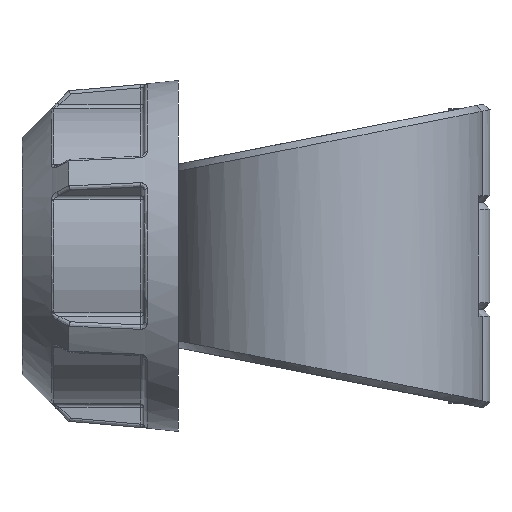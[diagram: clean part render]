
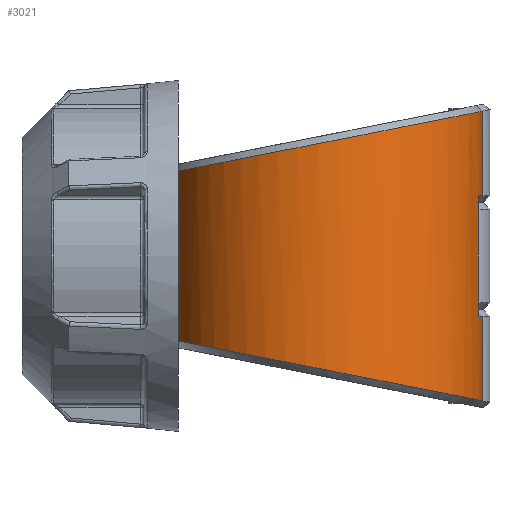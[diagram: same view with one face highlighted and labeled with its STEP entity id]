
A CAD part, left-side view. The second image highlights one B-rep face of the part: STEP entity #3021.
In plain terms, the highlighted cylindrical face has radius 45.5 mm (diameter 91 mm), a partial arc.
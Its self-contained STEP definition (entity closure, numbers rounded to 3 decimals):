
#212=FACE_OUTER_BOUND('',#416,.T.);
#416=EDGE_LOOP('',(#2055,#2056,#2057,#2058,#2059,#2060,#2061,#2062,#2063,
#2064,#2065,#2066));
#623=CIRCLE('',#3251,45.5);
#626=CIRCLE('',#3256,45.5);
#805=B_SPLINE_CURVE_WITH_KNOTS('',3,(#4498,#4499,#4500,#4501),
 .UNSPECIFIED.,.F.,.F.,(4,4),(-0.004,0.),.UNSPECIFIED.);
#806=B_SPLINE_CURVE_WITH_KNOTS('',3,(#4503,#4504,#4505,#4506),
 .UNSPECIFIED.,.F.,.F.,(4,4),(-3.022,-3.021),
 .UNSPECIFIED.);
#807=B_SPLINE_CURVE_WITH_KNOTS('',3,(#4507,#4508,#4509,#4510,#4511,#4512,
#4513,#4514,#4515,#4516),.UNSPECIFIED.,.F.,.F.,(4,1,1,1,1,1,1,4),(0.315,
0.537,0.954,1.371,1.788,2.205,
2.622,3.021),.UNSPECIFIED.);
#808=B_SPLINE_CURVE_WITH_KNOTS('',3,(#4518,#4519,#4520,#4521,#4522,#4523,
#4524,#4525,#4526,#4527),.UNSPECIFIED.,.F.,.F.,(4,1,1,1,1,1,1,4),(-3.021,
-2.622,-2.205,-1.788,-1.371,
-0.954,-0.537,-0.315),.UNSPECIFIED.);
#809=B_SPLINE_CURVE_WITH_KNOTS('',3,(#4529,#4530,#4531,#4532),
 .UNSPECIFIED.,.F.,.F.,(4,4),(3.021,3.022),
 .UNSPECIFIED.);
#810=B_SPLINE_CURVE_WITH_KNOTS('',3,(#4534,#4535,#4536,#4537),
 .UNSPECIFIED.,.F.,.F.,(4,4),(-1.087,-1.085),
 .UNSPECIFIED.);
#972=LINE('',#4384,#1093);
#979=LINE('',#4432,#1100);
#985=LINE('',#4496,#1106);
#986=LINE('',#4538,#1107);
#1093=VECTOR('',#3575,10.);
#1100=VECTOR('',#3592,10.);
#1106=VECTOR('',#3638,10.);
#1107=VECTOR('',#3639,10.);
#1216=VERTEX_POINT('',#4376);
#1217=VERTEX_POINT('',#4383);
#1229=VERTEX_POINT('',#4426);
#1230=VERTEX_POINT('',#4431);
#1236=VERTEX_POINT('',#4452);
#1239=VERTEX_POINT('',#4473);
#1243=VERTEX_POINT('',#4495);
#1244=VERTEX_POINT('',#4497);
#1245=VERTEX_POINT('',#4502);
#1246=VERTEX_POINT('',#4517);
#1247=VERTEX_POINT('',#4528);
#1248=VERTEX_POINT('',#4533);
#1510=EDGE_CURVE('',#1216,#1217,#972,.T.);
#1524=EDGE_CURVE('',#1229,#1230,#979,.T.);
#1537=EDGE_CURVE('',#1236,#1229,#623,.T.);
#1542=EDGE_CURVE('',#1230,#1239,#626,.T.);
#1548=EDGE_CURVE('',#1243,#1236,#985,.T.);
#1549=EDGE_CURVE('',#1244,#1243,#805,.T.);
#1550=EDGE_CURVE('',#1244,#1245,#806,.T.);
#1551=EDGE_CURVE('',#1217,#1245,#807,.T.);
#1552=EDGE_CURVE('',#1246,#1216,#808,.T.);
#1553=EDGE_CURVE('',#1246,#1247,#809,.T.);
#1554=EDGE_CURVE('',#1248,#1247,#810,.T.);
#1555=EDGE_CURVE('',#1239,#1248,#986,.T.);
#2055=ORIENTED_EDGE('',*,*,#1542,.F.);
#2056=ORIENTED_EDGE('',*,*,#1524,.F.);
#2057=ORIENTED_EDGE('',*,*,#1537,.F.);
#2058=ORIENTED_EDGE('',*,*,#1548,.F.);
#2059=ORIENTED_EDGE('',*,*,#1549,.F.);
#2060=ORIENTED_EDGE('',*,*,#1550,.T.);
#2061=ORIENTED_EDGE('',*,*,#1551,.F.);
#2062=ORIENTED_EDGE('',*,*,#1510,.F.);
#2063=ORIENTED_EDGE('',*,*,#1552,.F.);
#2064=ORIENTED_EDGE('',*,*,#1553,.T.);
#2065=ORIENTED_EDGE('',*,*,#1554,.F.);
#2066=ORIENTED_EDGE('',*,*,#1555,.F.);
#2962=CYLINDRICAL_SURFACE('',#3261,45.5);
#3021=ADVANCED_FACE('',(#212),#2962,.T.);
#3251=AXIS2_PLACEMENT_3D('',#4468,#3614,#3615);
#3256=AXIS2_PLACEMENT_3D('',#4482,#3624,#3625);
#3261=AXIS2_PLACEMENT_3D('',#4494,#3636,#3637);
#3575=DIRECTION('',(0.,0.,1.));
#3592=DIRECTION('',(0.,0.,-1.));
#3614=DIRECTION('center_axis',(0.,0.,-1.));
#3615=DIRECTION('ref_axis',(0.312,-0.95,0.));
#3624=DIRECTION('center_axis',(0.,0.,1.));
#3625=DIRECTION('ref_axis',(0.312,-0.95,0.));
#3636=DIRECTION('center_axis',(0.,0.,1.));
#3637=DIRECTION('ref_axis',(-0.312,0.95,0.));
#3638=DIRECTION('',(0.,0.,-1.));
#3639=DIRECTION('',(0.,0.,-1.));
#4376=CARTESIAN_POINT('',(-14.207,43.225,-24.696));
#4383=CARTESIAN_POINT('',(-14.207,43.225,24.696));
#4384=CARTESIAN_POINT('',(-14.207,43.225,0.));
#4426=CARTESIAN_POINT('',(-11.743,-43.958,17.575));
#4431=CARTESIAN_POINT('',(-11.743,-43.958,-17.575));
#4432=CARTESIAN_POINT('',(-11.743,-43.958,0.));
#4452=CARTESIAN_POINT('',(-5.414,-45.177,17.575));
#4468=CARTESIAN_POINT('Origin',(0.,0.,17.575));
#4473=CARTESIAN_POINT('',(-5.414,-45.177,-17.575));
#4482=CARTESIAN_POINT('Origin',(0.,0.,-17.575));
#4494=CARTESIAN_POINT('Origin',(0.,0.,0.));
#4495=CARTESIAN_POINT('',(-5.414,-45.177,42.06));
#4496=CARTESIAN_POINT('',(-5.414,-45.177,0.));
#4497=CARTESIAN_POINT('',(-5.384,-45.18,42.079));
#4498=CARTESIAN_POINT('Ctrl Pts',(-5.384,-45.18,42.079));
#4499=CARTESIAN_POINT('Ctrl Pts',(-5.394,-45.179,42.072));
#4500=CARTESIAN_POINT('Ctrl Pts',(-5.404,-45.178,42.066));
#4501=CARTESIAN_POINT('Ctrl Pts',(-5.414,-45.176,42.06));
#4502=CARTESIAN_POINT('',(-5.414,-45.177,42.078));
#4503=CARTESIAN_POINT('Ctrl Pts',(-5.384,-45.18,42.079));
#4504=CARTESIAN_POINT('Ctrl Pts',(-5.394,-45.179,42.079));
#4505=CARTESIAN_POINT('Ctrl Pts',(-5.404,-45.178,42.078));
#4506=CARTESIAN_POINT('Ctrl Pts',(-5.414,-45.177,42.078));
#4507=CARTESIAN_POINT('Ctrl Pts',(-14.206,43.222,24.697));
#4508=CARTESIAN_POINT('Ctrl Pts',(-17.433,42.162,24.904));
#4509=CARTESIAN_POINT('Ctrl Pts',(-26.375,38.081,25.7));
#4510=CARTESIAN_POINT('Ctrl Pts',(-38.409,26.828,27.897));
#4511=CARTESIAN_POINT('Ctrl Pts',(-45.992,8.909,31.407));
#4512=CARTESIAN_POINT('Ctrl Pts',(-45.645,-10.475,35.218));
#4513=CARTESIAN_POINT('Ctrl Pts',(-37.531,-28.007,38.678));
#4514=CARTESIAN_POINT('Ctrl Pts',(-23.277,-40.558,41.162));
#4515=CARTESIAN_POINT('Ctrl Pts',(-11.379,-44.461,41.936));
#4516=CARTESIAN_POINT('Ctrl Pts',(-5.414,-45.177,42.078));
#4517=CARTESIAN_POINT('',(-5.414,-45.177,-42.078));
#4518=CARTESIAN_POINT('Ctrl Pts',(-5.414,-45.177,-42.078));
#4519=CARTESIAN_POINT('Ctrl Pts',(-11.379,-44.461,-41.936));
#4520=CARTESIAN_POINT('Ctrl Pts',(-23.277,-40.558,-41.162));
#4521=CARTESIAN_POINT('Ctrl Pts',(-37.531,-28.007,-38.678));
#4522=CARTESIAN_POINT('Ctrl Pts',(-45.645,-10.475,-35.218));
#4523=CARTESIAN_POINT('Ctrl Pts',(-45.992,8.909,-31.407));
#4524=CARTESIAN_POINT('Ctrl Pts',(-38.409,26.828,-27.897));
#4525=CARTESIAN_POINT('Ctrl Pts',(-26.375,38.081,-25.7));
#4526=CARTESIAN_POINT('Ctrl Pts',(-17.433,42.162,-24.904));
#4527=CARTESIAN_POINT('Ctrl Pts',(-14.206,43.222,-24.697));
#4528=CARTESIAN_POINT('',(-5.384,-45.18,-42.079));
#4529=CARTESIAN_POINT('Ctrl Pts',(-5.414,-45.177,-42.078));
#4530=CARTESIAN_POINT('Ctrl Pts',(-5.404,-45.178,-42.078));
#4531=CARTESIAN_POINT('Ctrl Pts',(-5.394,-45.179,-42.079));
#4532=CARTESIAN_POINT('Ctrl Pts',(-5.384,-45.18,-42.079));
#4533=CARTESIAN_POINT('',(-5.414,-45.177,-42.06));
#4534=CARTESIAN_POINT('Ctrl Pts',(-5.414,-45.176,-42.06));
#4535=CARTESIAN_POINT('Ctrl Pts',(-5.404,-45.178,-42.066));
#4536=CARTESIAN_POINT('Ctrl Pts',(-5.394,-45.179,-42.072));
#4537=CARTESIAN_POINT('Ctrl Pts',(-5.384,-45.18,-42.079));
#4538=CARTESIAN_POINT('',(-5.414,-45.177,0.));
